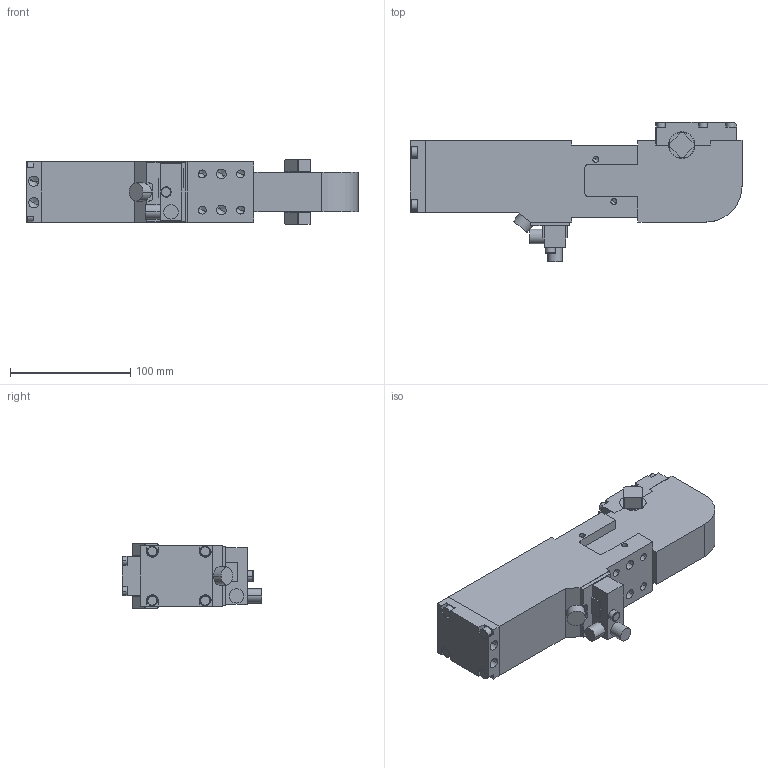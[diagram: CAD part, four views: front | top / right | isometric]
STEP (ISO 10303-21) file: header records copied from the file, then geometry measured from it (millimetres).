
FILE_DESCRIPTION(('CATIA V5 STEP Exchange'),'2;1');
FILE_NAME('C:\Users\huberm\Desktop\APH_40_5_B_A00_T12_TUENKERS.stp','2012-07-20T10:50:13+00:00',('none'),('none'),'CATIA Version 5 Release 19 SP 3 (IN-10)','CATIA V5 STEP AP203','none');
FILE_SCHEMA(('CONFIG_CONTROL_DESIGN'));
Length unit declared in the file: millimetre
Products named in the file (1): APH_40_5_B_A00_T12_TUENKERS
Bounding box: 276 x 116 x 54 mm (x, y, z)
Volume: 815928.3 mm3; surface area: 87290.4 mm2
Topology: 2 solids, 2 shells, 312 faces, 777 edges, 464 vertices
Faces by surface type: plane 145, cylinder 93, cone 52, torus 22
Entity records: 8231 total; most frequent: CARTESIAN_POINT 1534, ORIENTED_EDGE 1482, DIRECTION 1108, EDGE_CURVE 741, VERTEX_POINT 464, AXIS2_PLACEMENT_3D 460, VECTOR 446, LINE 446
